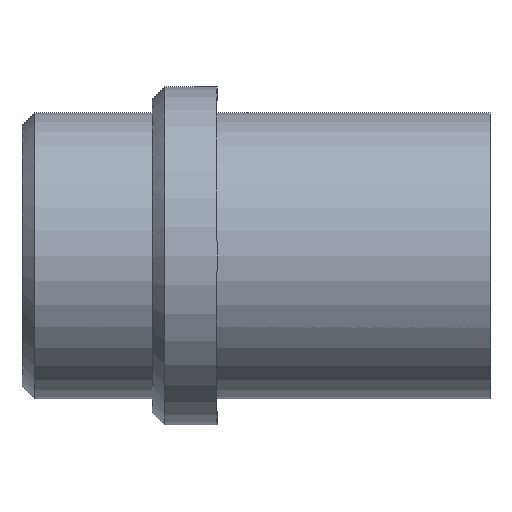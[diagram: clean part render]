
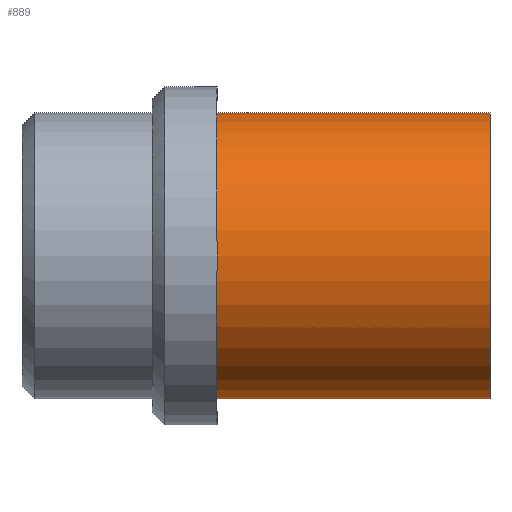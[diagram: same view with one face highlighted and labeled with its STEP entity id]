
A CAD part, front view. The second image highlights one B-rep face of the part: STEP entity #889.
In plain terms, the highlighted cylindrical face has radius 11 mm (diameter 22 mm), a partial arc.
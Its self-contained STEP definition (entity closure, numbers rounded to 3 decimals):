
#723=CARTESIAN_POINT('Vertex',(21.,0.,11.)) ;
#726=CARTESIAN_POINT('Axis2P3D Location',(21.,0.,0.)) ;
#730=CARTESIAN_POINT('Vertex',(21.,-11.,0.)) ;
#733=CARTESIAN_POINT('Axis2P3D Location',(21.,0.,0.)) ;
#737=CARTESIAN_POINT('Vertex',(21.,0.,-11.)) ;
#829=CARTESIAN_POINT('Line Origine',(21.,0.,11.)) ;
#833=CARTESIAN_POINT('Vertex',(0.,0.,11.)) ;
#836=CARTESIAN_POINT('Line Origine',(21.,0.,-11.)) ;
#840=CARTESIAN_POINT('Vertex',(0.,0.,-11.)) ;
#864=CARTESIAN_POINT('Axis2P3D Location',(21.,0.,0.)) ;
#869=CARTESIAN_POINT('Axis2P3D Location',(0.,0.,0.)) ;
#873=CARTESIAN_POINT('Vertex',(0.,-11.,0.)) ;
#876=CARTESIAN_POINT('Axis2P3D Location',(0.,0.,0.)) ;
#727=DIRECTION('Axis2P3D Direction',(1.,0.,-0.)) ;
#734=DIRECTION('Axis2P3D Direction',(1.,0.,-0.)) ;
#830=DIRECTION('Vector Direction',(-1.,0.,0.)) ;
#837=DIRECTION('Vector Direction',(-1.,0.,0.)) ;
#865=DIRECTION('Axis2P3D Direction',(-1.,-0.,-0.)) ;
#866=DIRECTION('Axis2P3D XDirection',(0.,0.,-1.)) ;
#870=DIRECTION('Axis2P3D Direction',(-1.,-0.,-0.)) ;
#877=DIRECTION('Axis2P3D Direction',(-1.,-0.,-0.)) ;
#728=AXIS2_PLACEMENT_3D('Circle Axis2P3D',#726,#727,$) ;
#735=AXIS2_PLACEMENT_3D('Circle Axis2P3D',#733,#734,$) ;
#867=AXIS2_PLACEMENT_3D('Cylinder Axis2P3D',#864,#865,#866) ;
#871=AXIS2_PLACEMENT_3D('Circle Axis2P3D',#869,#870,$) ;
#878=AXIS2_PLACEMENT_3D('Circle Axis2P3D',#876,#877,$) ;
#882=ORIENTED_EDGE('',*,*,#842,.T.) ;
#883=ORIENTED_EDGE('',*,*,#739,.F.) ;
#884=ORIENTED_EDGE('',*,*,#732,.F.) ;
#885=ORIENTED_EDGE('',*,*,#835,.T.) ;
#886=ORIENTED_EDGE('',*,*,#875,.T.) ;
#887=ORIENTED_EDGE('',*,*,#880,.T.) ;
#831=VECTOR('Line Direction',#830,1.) ;
#838=VECTOR('Line Direction',#837,1.) ;
#889=ADVANCED_FACE('358-16X36',(#888),#868,.T.) ;
#729=CIRCLE('generated circle',#728,11.) ;
#736=CIRCLE('generated circle',#735,11.) ;
#872=CIRCLE('generated circle',#871,11.) ;
#879=CIRCLE('generated circle',#878,11.) ;
#868=CYLINDRICAL_SURFACE('generated cylinder',#867,11.) ;
#732=EDGE_CURVE('',#724,#731,#729,.T.) ;
#739=EDGE_CURVE('',#731,#738,#736,.T.) ;
#835=EDGE_CURVE('',#724,#834,#832,.T.) ;
#842=EDGE_CURVE('',#841,#738,#839,.F.) ;
#875=EDGE_CURVE('',#834,#874,#872,.F.) ;
#880=EDGE_CURVE('',#874,#841,#879,.F.) ;
#881=EDGE_LOOP('',(#882,#883,#884,#885,#886,#887)) ;
#888=FACE_OUTER_BOUND('',#881,.T.) ;
#832=LINE('Line',#829,#831) ;
#839=LINE('Line',#836,#838) ;
#724=VERTEX_POINT('',#723) ;
#731=VERTEX_POINT('',#730) ;
#738=VERTEX_POINT('',#737) ;
#834=VERTEX_POINT('',#833) ;
#841=VERTEX_POINT('',#840) ;
#874=VERTEX_POINT('',#873) ;
